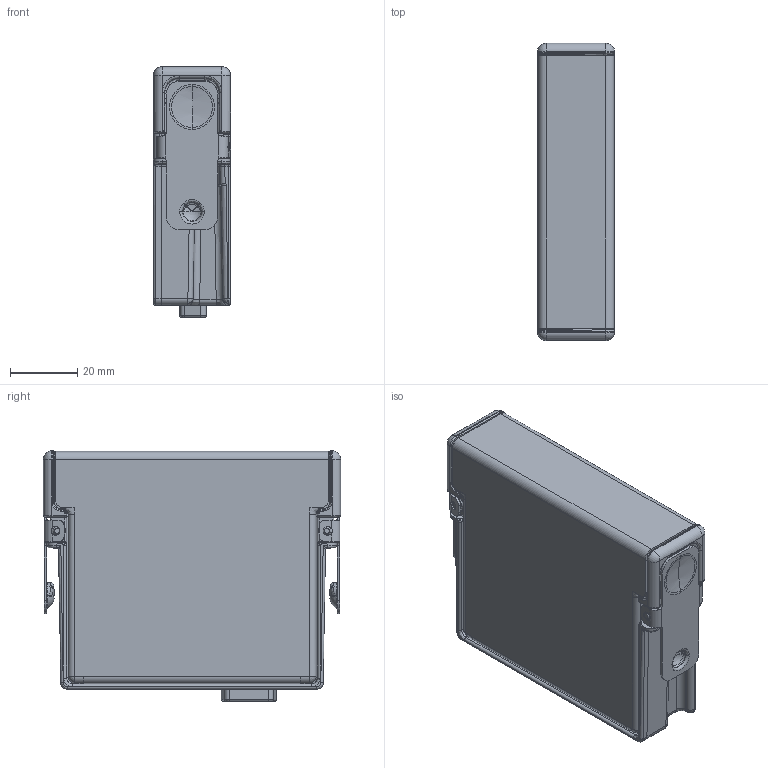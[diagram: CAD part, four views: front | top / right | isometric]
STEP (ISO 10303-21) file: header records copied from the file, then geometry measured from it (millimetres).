
FILE_DESCRIPTION((''),'2;1');
FILE_NAME('CART_CRIO_BLANK','2007-01-25T',('chrisj'),(''),'PRO/ENGINEER BY PARAMETRIC TECHNOLOGY CORPORATION, 2006080','PRO/ENGINEER BY PARAMETRIC TECHNOLOGY CORPORATION, 2006080','');
FILE_SCHEMA(('AUTOMOTIVE_DESIGN_CC2 { 1 2 10303 214 -1 1 5 2 }'));
Products named in the file (1): CART_CRIO_BLANK
Bounding box: 22.86 x 88.11 x 74.24 mm (x, y, z)
Volume: 38367.6 mm3; surface area: 45106.4 mm2
Topology: 13 solids, 13 shells, 1382 faces, 3293 edges, 1910 vertices
Faces by surface type: cylinder 440, plane 420, bspline 365, torus 60, cone 52, sphere 39, extrusion 6
Entity records: 59366 total; most frequent: CARTESIAN_POINT 30466, ORIENTED_EDGE 6442, DIRECTION 5239, EDGE_CURVE 3221, VERTEX_POINT 1948, AXIS2_PLACEMENT_3D 1899, EDGE_LOOP 1453, VECTOR 1441
